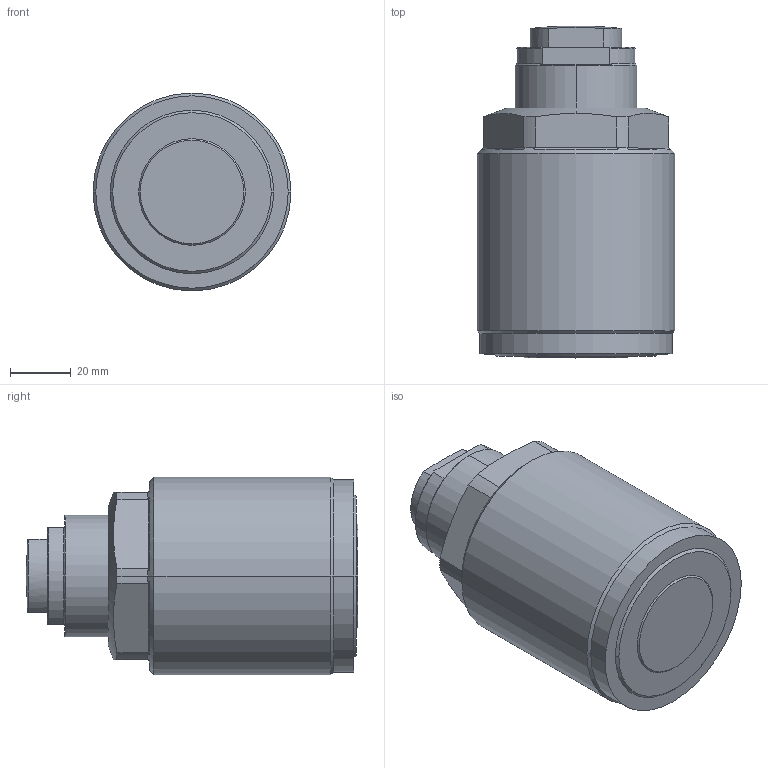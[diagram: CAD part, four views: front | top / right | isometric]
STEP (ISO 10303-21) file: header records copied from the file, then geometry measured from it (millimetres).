
FILE_DESCRIPTION(/* description */ (''),/* implementation_level */ '2;1');
FILE_NAME(/* name */ 'PGSS25-L.stp',/* time_stamp */ '2025-01-05T11:01:55+08:00',/* author */ (''),/* organization */ (''),/* preprocessor_version */ 'ST-DEVELOPER v16.7',/* originating_system */ 'SIEMENS PLM Software NX 12.0',/* authorisation */ '');
FILE_SCHEMA (('AUTOMOTIVE_DESIGN { 1 0 10303 214 3 1 1 1 }'));
Length unit declared in the file: millimetre
Products named in the file (4): PGSS25-L-03; PGSS25-L-02; PGSS25-L-01; CSV25M-L_step
Assembly tree (3 placements, depth 2):
  CSV25M-L_step
    PGSS25-L-01
    PGSS25-L-02
    PGSS25-L-03
Bounding box: 65 x 109 x 65 mm (x, y, z)
Volume: 267496.6 mm3; surface area: 31881.3 mm2
Topology: 3 solids, 3 shells, 90 faces, 214 edges, 136 vertices
Faces by surface type: cylinder 35, plane 29, cone 20, torus 4, sphere 2
Entity records: 3049 total; most frequent: CARTESIAN_POINT 856, DIRECTION 461, ORIENTED_EDGE 428, EDGE_CURVE 214, AXIS2_PLACEMENT_3D 193, VERTEX_POINT 136, CIRCLE 99, EDGE_LOOP 98
